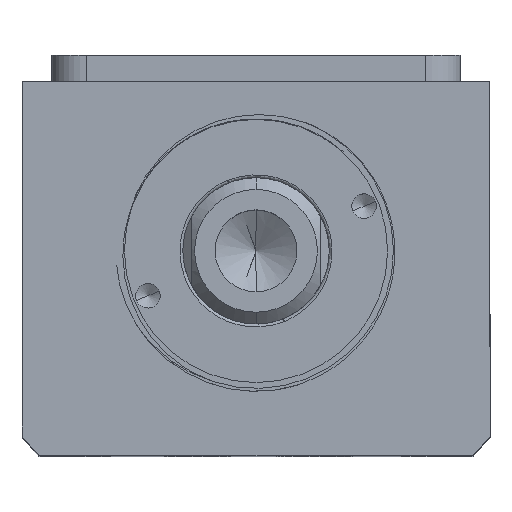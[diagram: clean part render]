
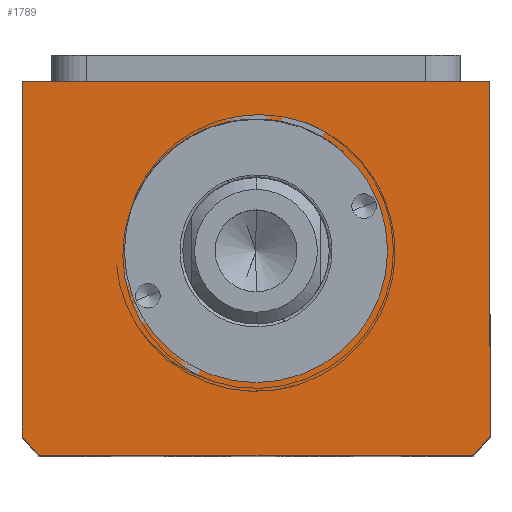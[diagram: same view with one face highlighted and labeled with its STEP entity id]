
A CAD part, top view. The second image highlights one B-rep face of the part: STEP entity #1789.
In plain terms, the highlighted planar face has unit normal (0, 0, 1).
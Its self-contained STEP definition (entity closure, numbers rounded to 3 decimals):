
#293 = AXIS2_PLACEMENT_3D ( 'NONE', #5794, #808, #6607 ) ;
#354 = EDGE_LOOP ( 'NONE', ( #4928, #9603, #9427, #3357, #1637, #8272 ) ) ;
#381 = VERTEX_POINT ( 'NONE', #10132 ) ;
#391 = DIRECTION ( 'NONE',  ( 1., 0., 0. ) ) ;
#605 = DIRECTION ( 'NONE',  ( 1., 0., 0. ) ) ;
#808 = DIRECTION ( 'NONE',  ( 0., 0., 1. ) ) ;
#888 = DIRECTION ( 'NONE',  ( 1., 0., 0. ) ) ;
#1149 = CARTESIAN_POINT ( 'NONE',  ( -40., 32., 105. ) ) ;
#1637 = ORIENTED_EDGE ( 'NONE', *, *, #2035, .T. ) ;
#1700 = CARTESIAN_POINT ( 'NONE',  ( 22.5, 3., 105. ) ) ;
#1789 = ADVANCED_FACE ( 'NONE', ( #3070, #9662 ), #3918, .T. ) ;
#1873 = CARTESIAN_POINT ( 'NONE',  ( 37.094, -32., 105. ) ) ;
#1927 = VERTEX_POINT ( 'NONE', #7200 ) ;
#1982 = DIRECTION ( 'NONE',  ( 0., -1., 0. ) ) ;
#2008 = VECTOR ( 'NONE', #4005, 1000. ) ;
#2035 = EDGE_CURVE ( 'NONE', #7934, #5042, #10533, .T. ) ;
#2146 = EDGE_CURVE ( 'NONE', #5042, #1927, #4857, .T. ) ;
#2174 = VERTEX_POINT ( 'NONE', #1700 ) ;
#2222 = EDGE_CURVE ( 'NONE', #381, #7119, #8494, .T. ) ;
#2432 = EDGE_CURVE ( 'NONE', #2174, #5719, #8240, .T. ) ;
#2573 = CARTESIAN_POINT ( 'NONE',  ( -40., -32., 105. ) ) ;
#2664 = VECTOR ( 'NONE', #888, 1000. ) ;
#3070 = FACE_BOUND ( 'NONE', #6552, .T. ) ;
#3086 = CARTESIAN_POINT ( 'NONE',  ( 0., 0., 105. ) ) ;
#3224 = CARTESIAN_POINT ( 'NONE',  ( 40., 32., 105. ) ) ;
#3259 = DIRECTION ( 'NONE',  ( -1., 0., 0. ) ) ;
#3357 = ORIENTED_EDGE ( 'NONE', *, *, #3691, .T. ) ;
#3429 = EDGE_CURVE ( 'NONE', #7119, #10300, #8749, .T. ) ;
#3627 = CARTESIAN_POINT ( 'NONE',  ( -22.5, 3., 105. ) ) ;
#3691 = EDGE_CURVE ( 'NONE', #10300, #7934, #5519, .T. ) ;
#3772 = ORIENTED_EDGE ( 'NONE', *, *, #2432, .F. ) ;
#3918 = PLANE ( 'NONE',  #6851 ) ;
#3958 = AXIS2_PLACEMENT_3D ( 'NONE', #8967, #4008, #9782 ) ;
#4005 = DIRECTION ( 'NONE',  ( 0., 1., 0. ) ) ;
#4008 = DIRECTION ( 'NONE',  ( 0., 0., 1. ) ) ;
#4735 = DIRECTION ( 'NONE',  ( 0., 0., 1. ) ) ;
#4857 = LINE ( 'NONE', #10716, #7077 ) ;
#4928 = ORIENTED_EDGE ( 'NONE', *, *, #9180, .T. ) ;
#5042 = VERTEX_POINT ( 'NONE', #3224 ) ;
#5072 = VECTOR ( 'NONE', #1982, 1000. ) ;
#5390 = DIRECTION ( 'NONE',  ( 0., 0., 1. ) ) ;
#5400 = CARTESIAN_POINT ( 'NONE',  ( 40., -28.639, 105. ) ) ;
#5519 = CIRCLE ( 'NONE', #3958, 51. ) ;
#5573 = EDGE_CURVE ( 'NONE', #5719, #2174, #8290, .T. ) ;
#5605 = DIRECTION ( 'NONE',  ( 0., 0., 1. ) ) ;
#5719 = VERTEX_POINT ( 'NONE', #3627 ) ;
#5794 = CARTESIAN_POINT ( 'NONE',  ( 0., 3., 105. ) ) ;
#6552 = EDGE_LOOP ( 'NONE', ( #3772, #8833 ) ) ;
#6607 = DIRECTION ( 'NONE',  ( 1., 0., 0. ) ) ;
#6851 = AXIS2_PLACEMENT_3D ( 'NONE', #3086, #4735, #10494 ) ;
#7077 = VECTOR ( 'NONE', #3259, 1000. ) ;
#7119 = VERTEX_POINT ( 'NONE', #10230 ) ;
#7200 = CARTESIAN_POINT ( 'NONE',  ( -40., 32., 105. ) ) ;
#7934 = VERTEX_POINT ( 'NONE', #5400 ) ;
#8240 = CIRCLE ( 'NONE', #293, 22.5 ) ;
#8250 = AXIS2_PLACEMENT_3D ( 'NONE', #10506, #5605, #605 ) ;
#8272 = ORIENTED_EDGE ( 'NONE', *, *, #2146, .T. ) ;
#8290 = CIRCLE ( 'NONE', #8250, 22.5 ) ;
#8321 = AXIS2_PLACEMENT_3D ( 'NONE', #10313, #5390, #391 ) ;
#8494 = CIRCLE ( 'NONE', #8321, 51. ) ;
#8749 = LINE ( 'NONE', #2573, #2664 ) ;
#8833 = ORIENTED_EDGE ( 'NONE', *, *, #5573, .F. ) ;
#8967 = CARTESIAN_POINT ( 'NONE',  ( 0., 3., 105. ) ) ;
#9180 = EDGE_CURVE ( 'NONE', #1927, #381, #9735, .T. ) ;
#9427 = ORIENTED_EDGE ( 'NONE', *, *, #3429, .T. ) ;
#9603 = ORIENTED_EDGE ( 'NONE', *, *, #2222, .T. ) ;
#9662 = FACE_OUTER_BOUND ( 'NONE', #354, .T. ) ;
#9735 = LINE ( 'NONE', #1149, #5072 ) ;
#9782 = DIRECTION ( 'NONE',  ( 1., 0., 0. ) ) ;
#10132 = CARTESIAN_POINT ( 'NONE',  ( -40., -28.639, 105. ) ) ;
#10230 = CARTESIAN_POINT ( 'NONE',  ( -37.094, -32., 105. ) ) ;
#10300 = VERTEX_POINT ( 'NONE', #1873 ) ;
#10313 = CARTESIAN_POINT ( 'NONE',  ( 0., 3., 105. ) ) ;
#10494 = DIRECTION ( 'NONE',  ( 1., 0., 0. ) ) ;
#10506 = CARTESIAN_POINT ( 'NONE',  ( 0., 3., 105. ) ) ;
#10533 = LINE ( 'NONE', #10578, #2008 ) ;
#10578 = CARTESIAN_POINT ( 'NONE',  ( 40., 32., 105. ) ) ;
#10716 = CARTESIAN_POINT ( 'NONE',  ( -40., 32., 105. ) ) ;
